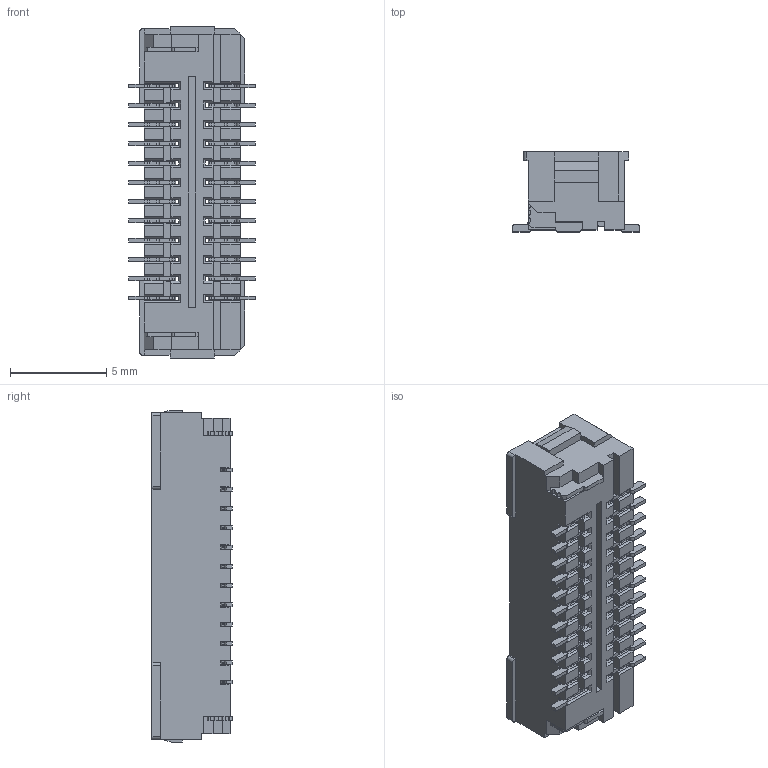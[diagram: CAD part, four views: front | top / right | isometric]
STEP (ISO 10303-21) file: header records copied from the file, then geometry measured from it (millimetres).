
FILE_DESCRIPTION(/* description */ (''),/* implementation_level */ '2;1');
FILE_NAME(/* name */ 'HC-SH25-2x12PLT-05 (1.00 双排 带扣 立贴-HCTL).stp',/* time_stamp */ '2026-10-21T09:49:37+08:00',/* author */ (''),/* organization */ (''),/* preprocessor_version */ 'ST-DEVELOPER v16',/* originating_system */ 'SIEMENS PLM Software NX 10.0',/* authorisation */ '');
FILE_SCHEMA (('AUTOMOTIVE_DESIGN { 1 0 10303 214 3 1 1 1 }'));
Products named in the file (1): HC-SH25-2x10PLT-05 (1.00  双排 带扣 
立贴-HCTL)
Bounding box: 6.6 x 4.17 x 17.29 mm (x, y, z)
Volume: 208.1 mm3; surface area: 1058.7 mm2
Topology: 1 solids, 3 shells, 2049 faces, 6326 edges, 4168 vertices
Faces by surface type: plane 1519, cylinder 530
Entity records: 70234 total; most frequent: CARTESIAN_POINT 12694, ORIENTED_EDGE 12652, DIRECTION 11440, EDGE_CURVE 6326, LINE 5212, VECTOR 5212, VERTEX_POINT 4168, AXIS2_PLACEMENT_3D 3114
